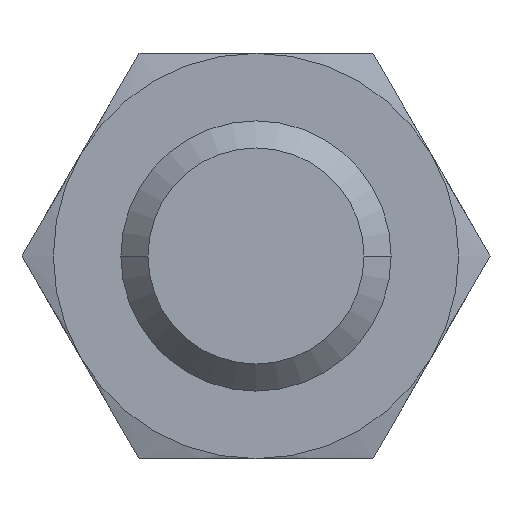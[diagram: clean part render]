
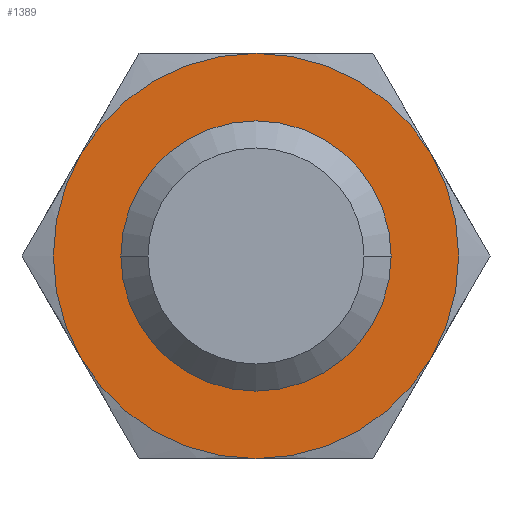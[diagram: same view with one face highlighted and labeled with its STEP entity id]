
A CAD part, front view. The second image highlights one B-rep face of the part: STEP entity #1389.
In plain terms, the highlighted planar face has unit normal (0, -1, 0) as drawn and (0, 0, 1) by its records, which use the part's own axes.
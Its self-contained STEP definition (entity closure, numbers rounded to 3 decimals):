
#42 = EDGE_CURVE ( 'NONE', #1598, #926, #1728, .T. ) ;
#56 = VERTEX_POINT ( 'NONE', #1663 ) ;
#104 = DIRECTION ( 'NONE',  ( -1., 0., 0. ) ) ;
#127 = PLANE ( 'NONE',  #898 ) ;
#137 = FACE_OUTER_BOUND ( 'NONE', #2012, .T. ) ;
#265 = CARTESIAN_POINT ( 'NONE',  ( 0., 0., 5. ) ) ;
#269 = ORIENTED_EDGE ( 'NONE', *, *, #2043, .F. ) ;
#283 = CIRCLE ( 'NONE', #1799, 15. ) ;
#315 = CARTESIAN_POINT ( 'NONE',  ( 0., 0., 5. ) ) ;
#350 = AXIS2_PLACEMENT_3D ( 'NONE', #315, #472, #1400 ) ;
#376 = CARTESIAN_POINT ( 'NONE',  ( 0., 0., 5. ) ) ;
#472 = DIRECTION ( 'NONE',  ( 0., 0., -1. ) ) ;
#479 = ORIENTED_EDGE ( 'NONE', *, *, #1022, .F. ) ;
#488 = VERTEX_POINT ( 'NONE', #639 ) ;
#516 = DIRECTION ( 'NONE',  ( 0., 0., -1. ) ) ;
#541 = DIRECTION ( 'NONE',  ( 0., 0., -1. ) ) ;
#542 = AXIS2_PLACEMENT_3D ( 'NONE', #1020, #516, #1011 ) ;
#554 = CIRCLE ( 'NONE', #2075, 8.75 ) ;
#556 = DIRECTION ( 'NONE',  ( 0., 0., -1. ) ) ;
#582 = CIRCLE ( 'NONE', #1359, 15. ) ;
#626 = CARTESIAN_POINT ( 'NONE',  ( 0., 0., 5. ) ) ;
#639 = CARTESIAN_POINT ( 'NONE',  ( 8.75, 0., 5. ) ) ;
#688 = DIRECTION ( 'NONE',  ( 0., 0., 1. ) ) ;
#690 = CARTESIAN_POINT ( 'NONE',  ( 0., 0., 5. ) ) ;
#794 = CARTESIAN_POINT ( 'NONE',  ( 0., -17.321, 5. ) ) ;
#798 = ORIENTED_EDGE ( 'NONE', *, *, #1532, .F. ) ;
#802 = DIRECTION ( 'NONE',  ( 1., 0., 0. ) ) ;
#810 = CARTESIAN_POINT ( 'NONE',  ( -8.75, 0., 5. ) ) ;
#815 = ORIENTED_EDGE ( 'NONE', *, *, #932, .F. ) ;
#841 = DIRECTION ( 'NONE',  ( 0., 0., 1. ) ) ;
#879 = EDGE_CURVE ( 'NONE', #983, #56, #582, .T. ) ;
#898 = AXIS2_PLACEMENT_3D ( 'NONE', #794, #1558, #802 ) ;
#926 = VERTEX_POINT ( 'NONE', #2030 ) ;
#932 = EDGE_CURVE ( 'NONE', #56, #1838, #283, .T. ) ;
#966 = DIRECTION ( 'NONE',  ( -1., 0., 0. ) ) ;
#983 = VERTEX_POINT ( 'NONE', #2010 ) ;
#1011 = DIRECTION ( 'NONE',  ( -1., 0., 0. ) ) ;
#1020 = CARTESIAN_POINT ( 'NONE',  ( 0., 0., 5. ) ) ;
#1022 = EDGE_CURVE ( 'NONE', #926, #983, #1631, .T. ) ;
#1041 = CARTESIAN_POINT ( 'NONE',  ( 0., 0., 5. ) ) ;
#1068 = EDGE_CURVE ( 'NONE', #1838, #1665, #1434, .T. ) ;
#1086 = AXIS2_PLACEMENT_3D ( 'NONE', #1041, #688, #1811 ) ;
#1096 = DIRECTION ( 'NONE',  ( 0., 0., -1. ) ) ;
#1141 = DIRECTION ( 'NONE',  ( 1., 0., 0. ) ) ;
#1194 = DIRECTION ( 'NONE',  ( 0., 0., -1. ) ) ;
#1299 = CARTESIAN_POINT ( 'NONE',  ( 15., 0., 5. ) ) ;
#1322 = DIRECTION ( 'NONE',  ( -1., 0., 0. ) ) ;
#1324 = ORIENTED_EDGE ( 'NONE', *, *, #42, .F. ) ;
#1350 = ORIENTED_EDGE ( 'NONE', *, *, #879, .F. ) ;
#1359 = AXIS2_PLACEMENT_3D ( 'NONE', #1874, #541, #104 ) ;
#1389 = ADVANCED_FACE ( 'NONE', ( #137, #2035 ), #127, .T. ) ;
#1400 = DIRECTION ( 'NONE',  ( -1., 0., 0. ) ) ;
#1406 = ORIENTED_EDGE ( 'NONE', *, *, #2045, .F. ) ;
#1434 = CIRCLE ( 'NONE', #1800, 15. ) ;
#1446 = CARTESIAN_POINT ( 'NONE',  ( -7.5, -12.99, 5. ) ) ;
#1528 = CARTESIAN_POINT ( 'NONE',  ( 7.5, -12.99, 5. ) ) ;
#1532 = EDGE_CURVE ( 'NONE', #1590, #488, #554, .T. ) ;
#1558 = DIRECTION ( 'NONE',  ( 0., 0., 1. ) ) ;
#1583 = CIRCLE ( 'NONE', #1086, 8.75 ) ;
#1590 = VERTEX_POINT ( 'NONE', #810 ) ;
#1598 = VERTEX_POINT ( 'NONE', #1446 ) ;
#1631 = CIRCLE ( 'NONE', #350, 15. ) ;
#1648 = EDGE_LOOP ( 'NONE', ( #798, #1406 ) ) ;
#1663 = CARTESIAN_POINT ( 'NONE',  ( 7.5, 12.99, 5. ) ) ;
#1665 = VERTEX_POINT ( 'NONE', #1528 ) ;
#1728 = CIRCLE ( 'NONE', #542, 15. ) ;
#1782 = CIRCLE ( 'NONE', #2050, 15. ) ;
#1799 = AXIS2_PLACEMENT_3D ( 'NONE', #265, #1194, #1856 ) ;
#1800 = AXIS2_PLACEMENT_3D ( 'NONE', #626, #1096, #966 ) ;
#1811 = DIRECTION ( 'NONE',  ( 1., 0., 0. ) ) ;
#1838 = VERTEX_POINT ( 'NONE', #1299 ) ;
#1856 = DIRECTION ( 'NONE',  ( -1., 0., 0. ) ) ;
#1874 = CARTESIAN_POINT ( 'NONE',  ( 0., 0., 5. ) ) ;
#1945 = ORIENTED_EDGE ( 'NONE', *, *, #1068, .F. ) ;
#2010 = CARTESIAN_POINT ( 'NONE',  ( -7.5, 12.99, 5. ) ) ;
#2012 = EDGE_LOOP ( 'NONE', ( #1945, #815, #1350, #479, #1324, #269 ) ) ;
#2030 = CARTESIAN_POINT ( 'NONE',  ( -15., 0., 5. ) ) ;
#2035 = FACE_BOUND ( 'NONE', #1648, .T. ) ;
#2043 = EDGE_CURVE ( 'NONE', #1665, #1598, #1782, .T. ) ;
#2045 = EDGE_CURVE ( 'NONE', #488, #1590, #1583, .T. ) ;
#2050 = AXIS2_PLACEMENT_3D ( 'NONE', #376, #556, #1322 ) ;
#2075 = AXIS2_PLACEMENT_3D ( 'NONE', #690, #841, #1141 ) ;
